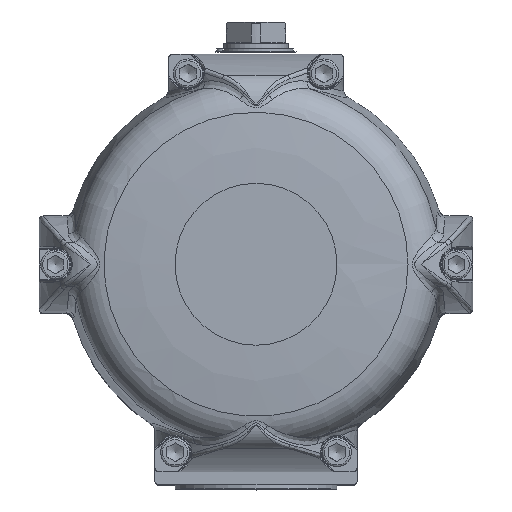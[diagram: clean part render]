
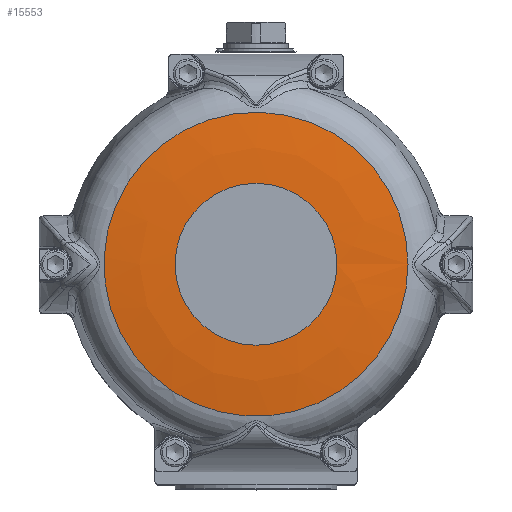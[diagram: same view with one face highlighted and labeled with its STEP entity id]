
A CAD part, top view. The second image highlights one B-rep face of the part: STEP entity #15553.
In plain terms, the highlighted free-form (B-spline) face has degree [2, 2] with [3, 9] control points.
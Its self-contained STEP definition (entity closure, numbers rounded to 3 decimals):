
#11525=CARTESIAN_POINT('',(93.903,0.,211.77));
#11526=VERTEX_POINT('',#11525);
#11527=CARTESIAN_POINT('',(0.,0.,211.77));
#11528=DIRECTION('',(0.0,0.0,-1.0));
#11529=DIRECTION('',(1.0,0.0,0.0));
#11530=AXIS2_PLACEMENT_3D('',#11527,#11528,#11529);
#11531=CIRCLE('',#11530,93.903);
#11532=EDGE_CURVE('',#11526,#11526,#11531,.T.);
#15500=CARTESIAN_POINT('',(50.,0.,215.));
#15501=VERTEX_POINT('',#15500);
#15502=CARTESIAN_POINT('',(0.,0.,215.));
#15503=DIRECTION('',(0.0,0.0,-1.0));
#15504=DIRECTION('',(1.0,0.0,0.0));
#15505=AXIS2_PLACEMENT_3D('',#15502,#15503,#15504);
#15506=CIRCLE('',#15505,50.0);
#15507=EDGE_CURVE('',#15501,#15501,#15506,.T.);
#15512=CARTESIAN_POINT('',(0.,6.097,211.77));
#15513=CARTESIAN_POINT('',(0.,50.,218.265));
#15514=CARTESIAN_POINT('',(0.,93.903,211.77));
#15515=CARTESIAN_POINT('',(-6.097,6.097,211.77));
#15516=CARTESIAN_POINT('',(-50.,50.,218.265));
#15517=CARTESIAN_POINT('',(-93.903,93.903,211.77));
#15518=CARTESIAN_POINT('',(-6.097,0.,211.77));
#15519=CARTESIAN_POINT('',(-50.,0.,218.265));
#15520=CARTESIAN_POINT('',(-93.903,0.,211.77));
#15521=CARTESIAN_POINT('',(-6.097,-6.097,211.77));
#15522=CARTESIAN_POINT('',(-50.,-50.,218.265));
#15523=CARTESIAN_POINT('',(-93.903,-93.903,211.77));
#15524=CARTESIAN_POINT('',(0.,-6.097,211.77));
#15525=CARTESIAN_POINT('',(0.,-50.,218.265));
#15526=CARTESIAN_POINT('',(0.,-93.903,211.77));
#15527=CARTESIAN_POINT('',(6.097,-6.097,211.77));
#15528=CARTESIAN_POINT('',(50.,-50.,218.265));
#15529=CARTESIAN_POINT('',(93.903,-93.903,211.77));
#15530=CARTESIAN_POINT('',(6.097,0.,211.77));
#15531=CARTESIAN_POINT('',(50.,0.,218.265));
#15532=CARTESIAN_POINT('',(93.903,0.,211.77));
#15533=CARTESIAN_POINT('',(6.097,6.097,211.77));
#15534=CARTESIAN_POINT('',(50.,50.,218.265));
#15535=CARTESIAN_POINT('',(93.903,93.903,211.77));
#15536=CARTESIAN_POINT('',(0.,6.097,211.77));
#15537=CARTESIAN_POINT('',(0.,50.,218.265));
#15538=CARTESIAN_POINT('',(0.,93.903,211.77));
#15546=(BOUNDED_SURFACE()B_SPLINE_SURFACE(2,2,((#15512,#15515,#15518,#15521,#15524,#15527,#15530,#15533,#15536),(#15513,#15516,#15519,#15522,#15525,#15528,#15531,#15534,#15537),(#15514,#15517,#15520,#15523,#15526,#15529,#15532,#15535,#15538)),.UNSPECIFIED.,.F.,.T.,.U.)B_SPLINE_SURFACE_WITH_KNOTS((3,3),(3,2,2,2,3),(-1.718,-1.424),(0.0,1.571,3.142,4.712,6.283),.UNSPECIFIED.)GEOMETRIC_REPRESENTATION_ITEM()RATIONAL_B_SPLINE_SURFACE(((1.0,0.707,1.0,0.707,1.0,0.707,1.0,0.707,1.0),(0.989,0.699,0.989,0.699,0.989,0.699,0.989,0.699,0.989),(1.0,0.707,1.0,0.707,1.0,0.707,1.0,0.707,1.0)))REPRESENTATION_ITEM('')SURFACE());
#15547=ORIENTED_EDGE('',*,*,#11532,.F.);
#15548=EDGE_LOOP('',(#15547));
#15549=FACE_OUTER_BOUND('',#15548,.T.);
#15550=ORIENTED_EDGE('',*,*,#15507,.T.);
#15551=EDGE_LOOP('',(#15550));
#15552=FACE_BOUND('',#15551,.T.);
#15553=ADVANCED_FACE('',(#15549,#15552),#15546,.T.);
